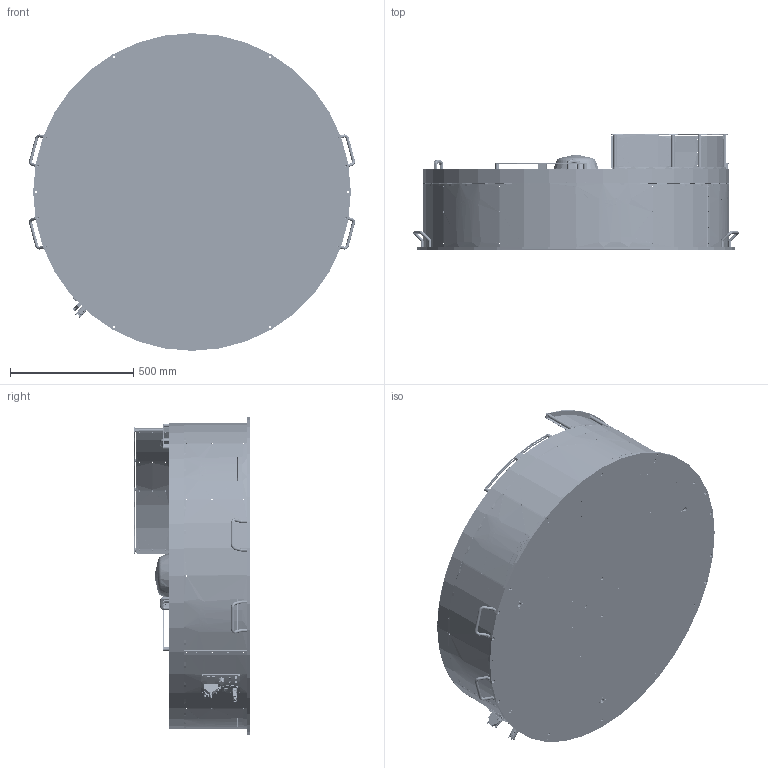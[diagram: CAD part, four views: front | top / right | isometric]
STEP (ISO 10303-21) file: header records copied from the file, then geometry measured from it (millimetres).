
FILE_DESCRIPTION (( 'STEP AP203' ), '1' );
FILE_NAME ('GM001465.STEP', '2024-11-04T14:25:14', ( '' ), ( '' ), 'SwSTEP 2.0', 'SolidWorks 2023', '' );
FILE_SCHEMA (( 'CONFIG_CONTROL_DESIGN' ));
Length unit declared in the file: millimetre
Products named in the file (51): PD001360_FB500; Copia di _K1735_lastbuegel13^CM001145; PD006343; PD003261; PD003269; CM000008_003; PD003244; CM000686; PD003262; PD007250; PD007284; CM000686_001; CM000008_001; PD007188; PD006333; CM000686_002; CM000001; CE000276; CM000008; PD006344; PD006338; CM000008_005; PD003235; CE000013; PD003220; GM001465; Copia di _K1735_lastbuegel23^CM001145; CE000007; PD006337; PD003272; PD003263; CE000421; CE000418; PD003249; CM000008_002; CE000419; CE000420; PD003259; PD001119; CE000005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
Assembly tree (76 placements, depth 3):
  GM001465
    PD007188
    PD007250
    PD003219
    PD003221  x2
    PD003220
    PD003244
    PD003249
    PD006333
    PD001360_FB500
    CE000007
    CE000013  x2
    CE000005
    CM000008
      CM000008_001
      CM000008_003  x2
      CM000008_002
      CM000008_004
      CM000008_005
    CE000316
    CM000686
      CM000686_001
      CM000686_002
    CE000276
    CE000420
    CE000419
    CE000418
    CE000421
    PD003259  x2
    PD003261
    PD003235  x2
    PD006338  x2
    PD006337  x4
    PD003267  x2
    PD000043  x4
    PD003263
    PD003272  x4
    PD003269
    PD003317
    PD001119  x2
    PD006343
    CM000001  x4
    PD003233  x2
    PD003274
    PD003262
    PD003234  x4
    CM001145  x3
      Copia di _K1735_lastbuegel13^CM001145
      Copia di _K1735_lastbuegel23^CM001145
    PD007284
    PD006344
Bounding box: 1322.61 x 469 x 1290 mm (x, y, z)
Volume: 35376401.4 mm3; surface area: 10924124.5 mm2
Topology: 78 solids, 97 shells, 11063 faces, 29902 edges, 19371 vertices
Faces by surface type: plane 4938, cylinder 3249, bspline 1698, cone 795, torus 324, sphere 59
Entity records: 514293 total; most frequent: CARTESIAN_POINT 264956, ORIENTED_EDGE 55220, DIRECTION 42939, EDGE_CURVE 27812, VERTEX_POINT 18195, AXIS2_PLACEMENT_3D 15677, EDGE_LOOP 11940, VECTOR 11585
